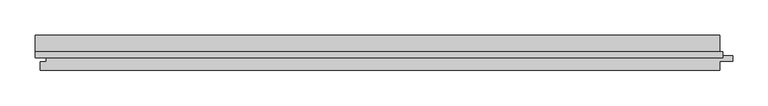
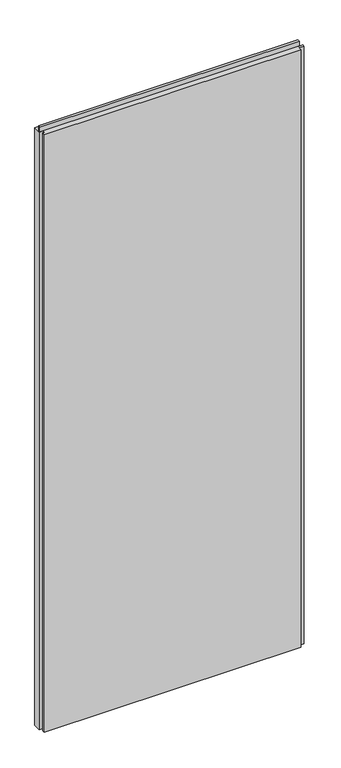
"""IFC4 building model written with IfcOpenShell, lengths in millimetres: plate geometry, Trimo_Qbiss Screen_Normal Panel-VERTICAL : HR - FB."""

from ifc_helpers import new_model, si_unit, frame, origin, place, context, project, spatial, polyline, outline, extrude, source, transform, mapped, element, save


def plate_83c40625(model_context):
    return source(origin(), model_context, "Body", "SweptSolid", [
        extrude(outline(polyline([(-488.5, 93.9), (-488.5, 102.6), (488.5, 102.6), (488.5, 93.9), (-488.5, 93.9)])), frame((0.0, 0.0, 2390.5), z_axis=(0.0, 0.0, 1.0), x_axis=(1.0, 0.0, 0.0)), (0.0, 0.0, 1.0), 19.0),
        extrude(outline(polyline([(484.5, 97.0), (503.0, 97.0), (503.0, 89.0), (484.5, 89.0), (484.5, 76.0), (-481.5, 76.0), (-481.5, 88.0), (-473.0, 88.0), (-473.0, 98.0), (-488.5, 98.0), (-488.5, 126.0), (484.5, 126.0), (484.5, 97.0)])), frame((0.0, 0.0, 12.5), z_axis=(0.0, 0.0, 1.0), x_axis=(1.0, 0.0, 0.0)), (0.0, 0.0, 1.0), 2375.0),
    ])


if __name__ == "__main__":
    model = new_model("IFC4")
    model_context = context("Model", 3, world=origin())
    ifc_project = project(units=[si_unit("LENGTHUNIT", "METRE", prefix="MILLI")], contexts=[model_context])
    site = spatial("IfcSite", under=ifc_project)
    building = spatial("IfcBuilding", under=site)
    placement = place(None, origin())
    plate_shape = plate_83c40625(model_context)
    element("IfcPlate", 1, ObjectType="Trimo_Qbiss Screen_Normal Panel-VERTICAL : HR - FB", at=placement, inside=building, context=model_context, shape_type="MappedRepresentation", body=[
        mapped(plate_shape, transform((0.0, 0.0, 0.0), x_axis=(1.0, 0.0, 0.0), y_axis=(0.0, 1.0, 0.0), z_axis=(0.0, 0.0, 1.0))),
    ])
    save(model, "model.ifc")
